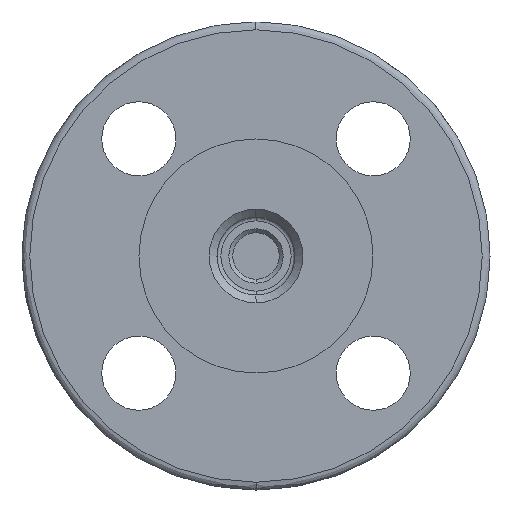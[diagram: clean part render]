
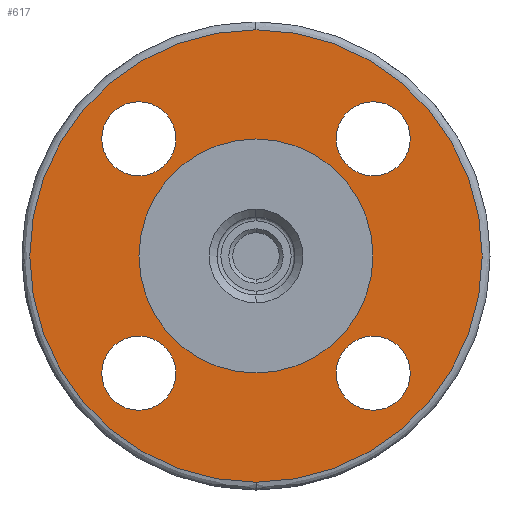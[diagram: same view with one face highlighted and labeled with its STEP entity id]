
A CAD part, left-side view. The second image highlights one B-rep face of the part: STEP entity #617.
In plain terms, the highlighted planar face has unit normal (-1, 0, 0).
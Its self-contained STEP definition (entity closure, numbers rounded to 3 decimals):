
#617=ADVANCED_FACE('',(#3173,#3174,#3175,#3176,#3177,#3178),#3172,.T.);
#3172=PLANE('',#6932);
#3173=FACE_OUTER_BOUND('',#6933,.T.);
#3174=FACE_BOUND('',#6934,.T.);
#3175=FACE_BOUND('',#6935,.T.);
#3176=FACE_BOUND('',#6936,.T.);
#3177=FACE_BOUND('',#6937,.T.);
#3178=FACE_BOUND('',#6938,.T.);
#6929=CARTESIAN_POINT('',(-66.5,-110.459,-126.));
#6930=DIRECTION('',(-1.,0.,0.));
#6931=DIRECTION('',(0.,0.,1.));
#6932=AXIS2_PLACEMENT_3D('',#6929,#6930,#6931);
#6933=EDGE_LOOP('',(#8689,#8690));
#6934=EDGE_LOOP('',(#8691,#8692));
#6935=EDGE_LOOP('',(#8693,#8694));
#6936=EDGE_LOOP('',(#8695,#8696));
#6937=EDGE_LOOP('',(#8697,#8698));
#6938=EDGE_LOOP('',(#8699,#8700));
#8689=ORIENTED_EDGE('',*,*,#9513,.T.);
#8690=ORIENTED_EDGE('',*,*,#9514,.T.);
#8691=ORIENTED_EDGE('',*,*,#9515,.T.);
#8692=ORIENTED_EDGE('',*,*,#9516,.T.);
#8693=ORIENTED_EDGE('',*,*,#9517,.T.);
#8694=ORIENTED_EDGE('',*,*,#9518,.T.);
#8695=ORIENTED_EDGE('',*,*,#9519,.F.);
#8696=ORIENTED_EDGE('',*,*,#9520,.F.);
#8697=ORIENTED_EDGE('',*,*,#9521,.T.);
#8698=ORIENTED_EDGE('',*,*,#9522,.T.);
#8699=ORIENTED_EDGE('',*,*,#9523,.T.);
#8700=ORIENTED_EDGE('',*,*,#9524,.T.);
#9513=EDGE_CURVE('',#13202,#13203,#13204,.T.);
#9514=EDGE_CURVE('',#13203,#13202,#13210,.T.);
#9515=EDGE_CURVE('',#13216,#13217,#13218,.T.);
#9516=EDGE_CURVE('',#13217,#13216,#13224,.T.);
#9517=EDGE_CURVE('',#13230,#13231,#13232,.T.);
#9518=EDGE_CURVE('',#13231,#13230,#13238,.T.);
#9519=EDGE_CURVE('',#13244,#13245,#13246,.T.);
#9520=EDGE_CURVE('',#13245,#13244,#13252,.T.);
#9521=EDGE_CURVE('',#13258,#13259,#13260,.T.);
#9522=EDGE_CURVE('',#13259,#13258,#13266,.T.);
#9523=EDGE_CURVE('',#13272,#13273,#13274,.T.);
#9524=EDGE_CURVE('',#13273,#13272,#13280,.T.);
#13202=VERTEX_POINT('',#17120);
#13203=VERTEX_POINT('',#17121);
#13204=CIRCLE('',#17125,58.);
#13210=CIRCLE('',#17129,58.);
#13216=VERTEX_POINT('',#17130);
#13217=VERTEX_POINT('',#17131);
#13218=CIRCLE('',#17135,9.5);
#13224=CIRCLE('',#17139,9.5);
#13230=VERTEX_POINT('',#17140);
#13231=VERTEX_POINT('',#17141);
#13232=CIRCLE('',#17145,9.5);
#13238=CIRCLE('',#17149,9.5);
#13244=VERTEX_POINT('',#17150);
#13245=VERTEX_POINT('',#17151);
#13246=CIRCLE('',#17155,30.);
#13252=CIRCLE('',#17159,30.);
#13258=VERTEX_POINT('',#17160);
#13259=VERTEX_POINT('',#17161);
#13260=CIRCLE('',#17165,9.5);
#13266=CIRCLE('',#17169,9.5);
#13272=VERTEX_POINT('',#17170);
#13273=VERTEX_POINT('',#17171);
#13274=CIRCLE('',#17175,9.5);
#13280=CIRCLE('',#17179,9.5);
#17120=CARTESIAN_POINT('',(-66.5,0.,58.));
#17121=CARTESIAN_POINT('',(-66.5,0.,-58.));
#17122=CARTESIAN_POINT('',(-66.5,0.,0.));
#17123=DIRECTION('',(-1.,0.,0.));
#17124=DIRECTION('',(0.,0.,1.));
#17125=AXIS2_PLACEMENT_3D('',#17122,#17123,#17124);
#17126=CARTESIAN_POINT('',(-66.5,0.,0.));
#17127=DIRECTION('',(-1.,0.,0.));
#17128=DIRECTION('',(0.,0.,1.));
#17129=AXIS2_PLACEMENT_3D('',#17126,#17127,#17128);
#17130=CARTESIAN_POINT('',(-66.5,30.052,-20.552));
#17131=CARTESIAN_POINT('',(-66.5,30.052,-39.552));
#17132=CARTESIAN_POINT('',(-66.5,30.052,-30.052));
#17133=DIRECTION('',(1.,0.,0.));
#17134=DIRECTION('',(0.,0.,1.));
#17135=AXIS2_PLACEMENT_3D('',#17132,#17133,#17134);
#17136=CARTESIAN_POINT('',(-66.5,30.052,-30.052));
#17137=DIRECTION('',(1.,0.,0.));
#17138=DIRECTION('',(0.,0.,1.));
#17139=AXIS2_PLACEMENT_3D('',#17136,#17137,#17138);
#17140=CARTESIAN_POINT('',(-66.5,-30.052,39.552));
#17141=CARTESIAN_POINT('',(-66.5,-30.052,20.552));
#17142=CARTESIAN_POINT('',(-66.5,-30.052,30.052));
#17143=DIRECTION('',(1.,0.,0.));
#17144=DIRECTION('',(0.,0.,1.));
#17145=AXIS2_PLACEMENT_3D('',#17142,#17143,#17144);
#17146=CARTESIAN_POINT('',(-66.5,-30.052,30.052));
#17147=DIRECTION('',(1.,0.,0.));
#17148=DIRECTION('',(0.,0.,1.));
#17149=AXIS2_PLACEMENT_3D('',#17146,#17147,#17148);
#17150=CARTESIAN_POINT('',(-66.5,0.,-30.));
#17151=CARTESIAN_POINT('',(-66.5,0.,30.));
#17152=CARTESIAN_POINT('',(-66.5,0.,0.));
#17153=DIRECTION('',(-1.,0.,0.));
#17154=DIRECTION('',(0.,0.,1.));
#17155=AXIS2_PLACEMENT_3D('',#17152,#17153,#17154);
#17156=CARTESIAN_POINT('',(-66.5,0.,0.));
#17157=DIRECTION('',(-1.,0.,0.));
#17158=DIRECTION('',(0.,0.,1.));
#17159=AXIS2_PLACEMENT_3D('',#17156,#17157,#17158);
#17160=CARTESIAN_POINT('',(-66.5,-30.052,-20.552));
#17161=CARTESIAN_POINT('',(-66.5,-30.052,-39.552));
#17162=CARTESIAN_POINT('',(-66.5,-30.052,-30.052));
#17163=DIRECTION('',(1.,0.,0.));
#17164=DIRECTION('',(0.,0.,1.));
#17165=AXIS2_PLACEMENT_3D('',#17162,#17163,#17164);
#17166=CARTESIAN_POINT('',(-66.5,-30.052,-30.052));
#17167=DIRECTION('',(1.,0.,0.));
#17168=DIRECTION('',(0.,0.,1.));
#17169=AXIS2_PLACEMENT_3D('',#17166,#17167,#17168);
#17170=CARTESIAN_POINT('',(-66.5,30.052,39.552));
#17171=CARTESIAN_POINT('',(-66.5,30.052,20.552));
#17172=CARTESIAN_POINT('',(-66.5,30.052,30.052));
#17173=DIRECTION('',(1.,0.,0.));
#17174=DIRECTION('',(0.,0.,1.));
#17175=AXIS2_PLACEMENT_3D('',#17172,#17173,#17174);
#17176=CARTESIAN_POINT('',(-66.5,30.052,30.052));
#17177=DIRECTION('',(1.,0.,0.));
#17178=DIRECTION('',(0.,0.,1.));
#17179=AXIS2_PLACEMENT_3D('',#17176,#17177,#17178);
